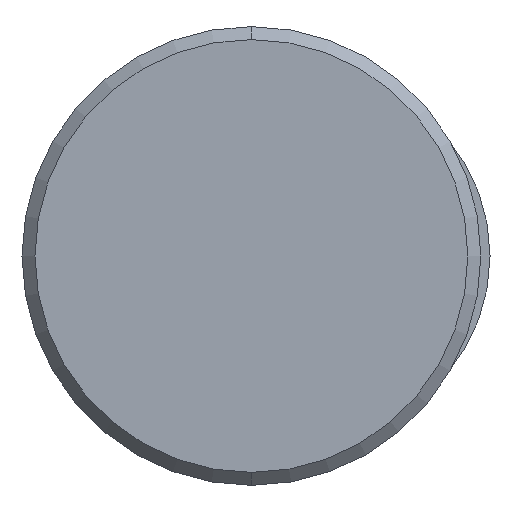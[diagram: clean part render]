
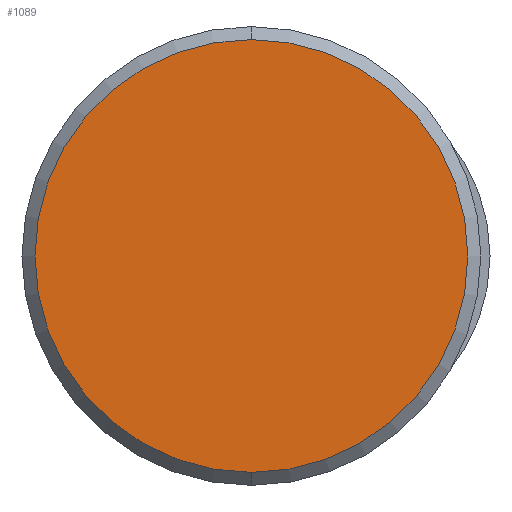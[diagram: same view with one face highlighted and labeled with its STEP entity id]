
A CAD part, left-side view. The second image highlights one B-rep face of the part: STEP entity #1089.
In plain terms, the highlighted planar face has unit normal (-1, 0, 0).
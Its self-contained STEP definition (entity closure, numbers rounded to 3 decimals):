
#1021=CARTESIAN_POINT('Vertex',(0.,0.,-23.586)) ;
#1024=CARTESIAN_POINT('Axis2P3D Location',(0.,0.,0.)) ;
#1028=CARTESIAN_POINT('Vertex',(0.,23.586,0.)) ;
#1031=CARTESIAN_POINT('Axis2P3D Location',(0.,0.,0.)) ;
#1035=CARTESIAN_POINT('Vertex',(0.,0.,23.586)) ;
#1057=CARTESIAN_POINT('Axis2P3D Location',(0.,0.,0.)) ;
#1061=CARTESIAN_POINT('Vertex',(0.,-23.586,0.)) ;
#1064=CARTESIAN_POINT('Axis2P3D Location',(0.,0.,0.)) ;
#1078=CARTESIAN_POINT('Axis2P3D Location',(0.,0.,0.)) ;
#1025=DIRECTION('Axis2P3D Direction',(1.,0.,-0.)) ;
#1032=DIRECTION('Axis2P3D Direction',(1.,0.,-0.)) ;
#1058=DIRECTION('Axis2P3D Direction',(1.,0.,-0.)) ;
#1065=DIRECTION('Axis2P3D Direction',(1.,0.,-0.)) ;
#1079=DIRECTION('Axis2P3D Direction',(1.,0.,-0.)) ;
#1080=DIRECTION('Axis2P3D XDirection',(-0.,0.,-1.)) ;
#1026=AXIS2_PLACEMENT_3D('Circle Axis2P3D',#1024,#1025,$) ;
#1033=AXIS2_PLACEMENT_3D('Circle Axis2P3D',#1031,#1032,$) ;
#1059=AXIS2_PLACEMENT_3D('Circle Axis2P3D',#1057,#1058,$) ;
#1066=AXIS2_PLACEMENT_3D('Circle Axis2P3D',#1064,#1065,$) ;
#1081=AXIS2_PLACEMENT_3D('Plane Axis2P3D',#1078,#1079,#1080) ;
#1084=ORIENTED_EDGE('',*,*,#1030,.F.) ;
#1085=ORIENTED_EDGE('',*,*,#1068,.F.) ;
#1086=ORIENTED_EDGE('',*,*,#1063,.F.) ;
#1087=ORIENTED_EDGE('',*,*,#1037,.F.) ;
#1089=ADVANCED_FACE('395W-040-225',(#1088),#1082,.F.) ;
#1027=CIRCLE('generated circle',#1026,23.586) ;
#1034=CIRCLE('generated circle',#1033,23.586) ;
#1060=CIRCLE('generated circle',#1059,23.586) ;
#1067=CIRCLE('generated circle',#1066,23.586) ;
#1030=EDGE_CURVE('',#1022,#1029,#1027,.T.) ;
#1037=EDGE_CURVE('',#1029,#1036,#1034,.T.) ;
#1063=EDGE_CURVE('',#1036,#1062,#1060,.T.) ;
#1068=EDGE_CURVE('',#1062,#1022,#1067,.T.) ;
#1083=EDGE_LOOP('',(#1084,#1085,#1086,#1087)) ;
#1088=FACE_OUTER_BOUND('',#1083,.T.) ;
#1082=PLANE('Plane',#1081) ;
#1022=VERTEX_POINT('',#1021) ;
#1029=VERTEX_POINT('',#1028) ;
#1036=VERTEX_POINT('',#1035) ;
#1062=VERTEX_POINT('',#1061) ;
